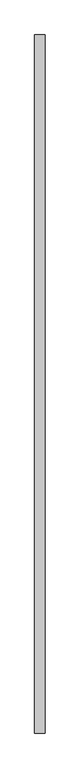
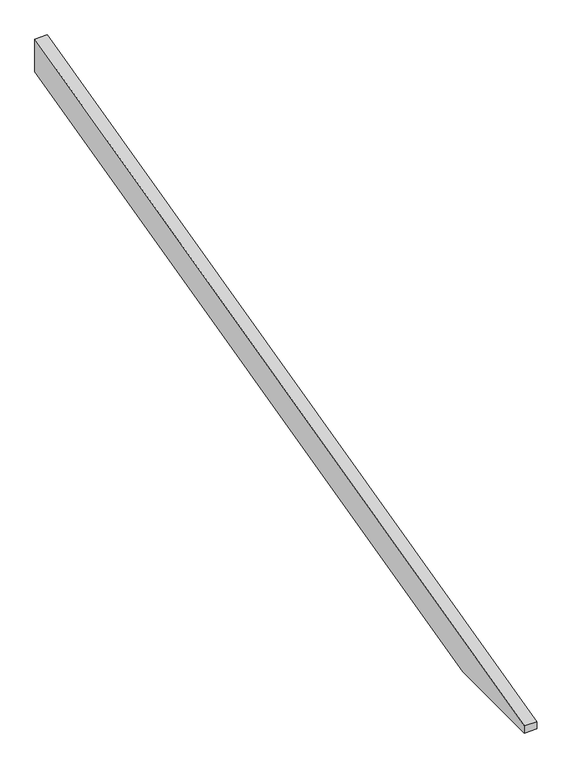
"""IFC4 building model written with IfcOpenShell, lengths in millimetres: proxy geometry, Modelos genéricos 72 : Modelos genéricos 12."""

from ifc_helpers import new_model, si_unit, frame, origin, place, context, project, spatial, polyline, outline, extrude, source, transform, mapped, element, save


def generic_models_78a46ebe(model_context):
    return source(origin(), model_context, "Body", "SweptSolid", [
        extrude(outline(polyline([(-2181.3761835, 3197.4798401), (1878.6238165, 4209.7515316), (1878.6238165, 4044.8533509), (-1670.3291324, 3160.0), (-2181.3761835, 3160.0), (-2181.3761835, 3197.4798401)])), frame((-1726.5527533, 0.0, 0.0), z_axis=(1.0, 0.0, 0.0), x_axis=(0.0, 1.0, 0.0)), (0.0, 0.0, 1.0), 60.0),
    ])


if __name__ == "__main__":
    model = new_model("IFC4")
    model_context = context("Model", 3, world=origin())
    ifc_project = project(units=[si_unit("LENGTHUNIT", "METRE", prefix="MILLI")], contexts=[model_context])
    site = spatial("IfcSite", under=ifc_project)
    building = spatial("IfcBuilding", under=site)
    placement = place(None, origin())
    generic_models_shape = generic_models_78a46ebe(model_context)
    element("IfcBuildingElementProxy", 1, Name="Modelos genéricos 72 : Modelos genéricos 12", ObjectType="Modelos genéricos 72 : Modelos genéricos 12", at=placement, inside=building, context=model_context, shape_type="MappedRepresentation", body=[
        mapped(generic_models_shape, transform((0.0, 0.0, 0.0), x_axis=(1.0, 0.0, 0.0), y_axis=(0.0, 1.0, 0.0), z_axis=(0.0, 0.0, 1.0))),
    ])
    save(model, "model.ifc")
